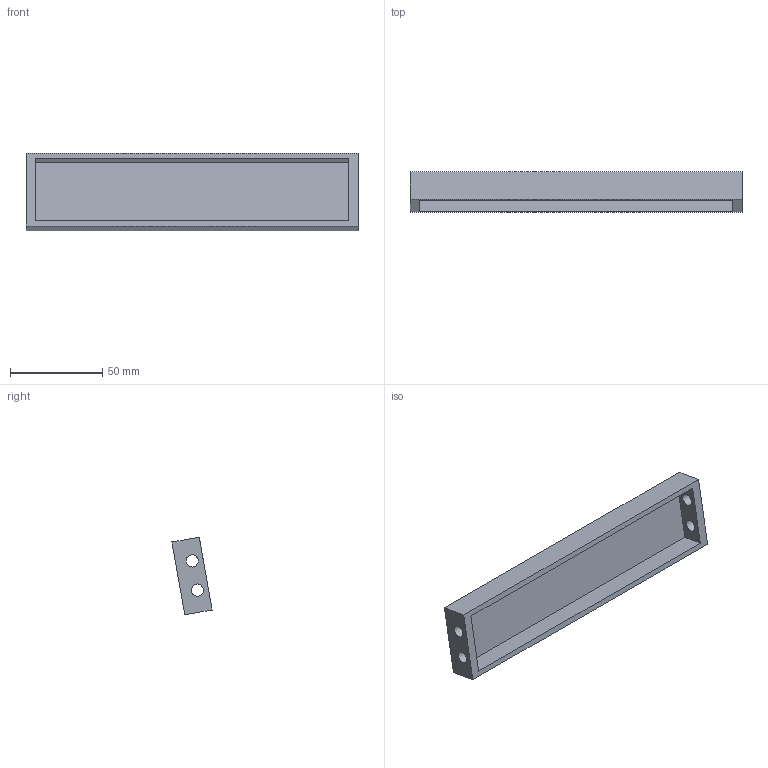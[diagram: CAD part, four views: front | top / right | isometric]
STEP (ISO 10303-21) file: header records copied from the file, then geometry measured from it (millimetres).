
FILE_DESCRIPTION(('golf model'),'2;1');
FILE_NAME('golf','',(''),(''),'golf_step_io','golf','');
FILE_SCHEMA(('AUTOMOTIVE_DESIGN { 1 0 10303 214 1 1 1 1 }'));
Length unit declared in the file: millimetre
Products named in the file (2): ASSEMBLY; y_carriage.y_chain_bracket
Assembly tree (1 placements, depth 2):
  ASSEMBLY
    y_carriage.y_chain_bracket
Bounding box: 179.5 x 21.72 x 42 mm (x, y, z)
Volume: 37859.8 mm3; surface area: 25970 mm2
Topology: 1 solids, 1 shells, 15 faces, 36 edges, 24 vertices
Faces by surface type: plane 11, cylinder 4
Full cylindrical faces by diameter (mm): 6.6 x4
Entity records: 468 total; most frequent: DIRECTION 74, CARTESIAN_POINT 73, ORIENTED_EDGE 64, EDGE_CURVE 32, EDGE_LOOP 28, AXIS2_PLACEMENT_3D 25, VERTEX_POINT 24, VECTOR 24
